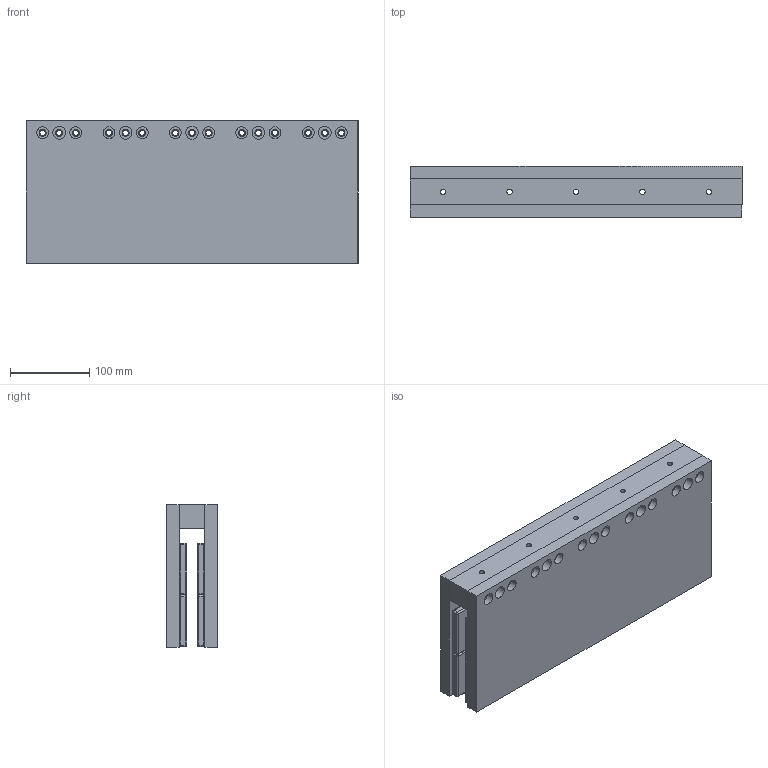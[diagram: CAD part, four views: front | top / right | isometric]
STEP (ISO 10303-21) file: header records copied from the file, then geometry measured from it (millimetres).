
FILE_DESCRIPTION (( 'STEP AP214' ), '1' );
FILE_NAME ('JKA6-420¶¨×Ó.STEP', '2025-09-05T12:52:27', ( '' ), ( '' ), 'SwSTEP 2.0', 'SolidWorks 2016', '' );
FILE_SCHEMA (( 'AUTOMOTIVE_DESIGN' ));
Length unit declared in the file: millimetre
Products named in the file (1): JKA6-420隅赽
Bounding box: 420 x 64.5 x 179.7 mm (x, y, z)
Volume: 3479492.3 mm3; surface area: 635460.8 mm2
Topology: 39 solids, 39 shells, 1214 faces, 2692 edges, 1288 vertices
Faces by surface type: cylinder 612, sphere 288, plane 264, cone 50
Entity records: 44500 total; most frequent: DIRECTION 6028, CARTESIAN_POINT 5027, ORIENTED_EDGE 4808, AXIS2_PLACEMENT_3D 2449, EDGE_CURVE 2404, EDGE_LOOP 1344, VERTEX_POINT 1288, UNCERTAINTY_MEASURE_WITH_UNIT 1255
